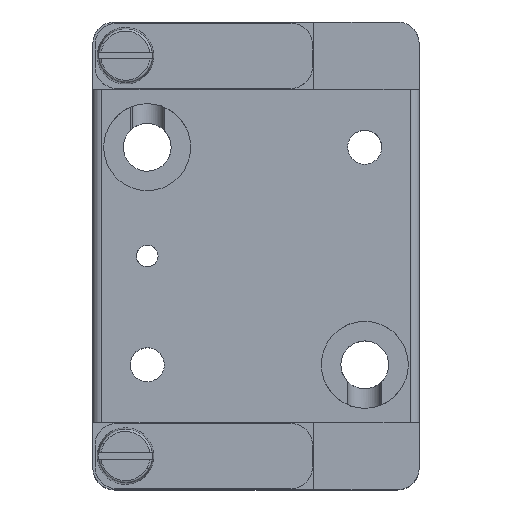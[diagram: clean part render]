
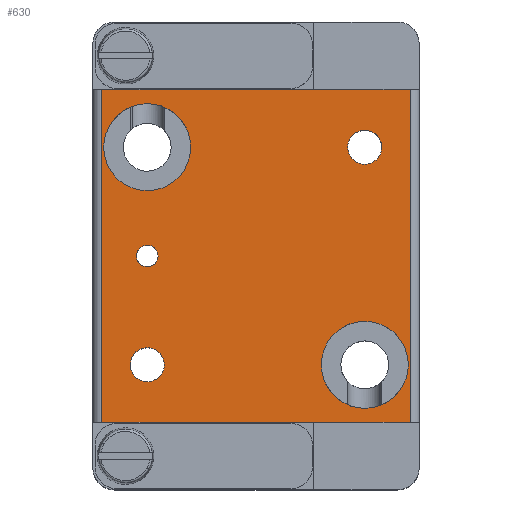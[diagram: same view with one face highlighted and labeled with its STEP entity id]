
A CAD part, top view. The second image highlights one B-rep face of the part: STEP entity #630.
In plain terms, the highlighted planar face has unit normal (0, 0, 1).
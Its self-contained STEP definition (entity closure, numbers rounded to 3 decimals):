
#408=AXIS2_PLACEMENT_3D('Circle Axis2P3D',#406,#407,$) ;
#472=AXIS2_PLACEMENT_3D('Plane Axis2P3D',#469,#470,#471) ;
#485=AXIS2_PLACEMENT_3D('Circle Axis2P3D',#483,#484,$) ;
#506=AXIS2_PLACEMENT_3D('Circle Axis2P3D',#504,#505,$) ;
#525=AXIS2_PLACEMENT_3D('Circle Axis2P3D',#523,#524,$) ;
#542=AXIS2_PLACEMENT_3D('Circle Axis2P3D',#540,#541,$) ;
#551=AXIS2_PLACEMENT_3D('Circle Axis2P3D',#549,#550,$) ;
#560=AXIS2_PLACEMENT_3D('Circle Axis2P3D',#558,#559,$) ;
#569=AXIS2_PLACEMENT_3D('Circle Axis2P3D',#567,#568,$) ;
#578=AXIS2_PLACEMENT_3D('Circle Axis2P3D',#576,#577,$) ;
#587=AXIS2_PLACEMENT_3D('Circle Axis2P3D',#585,#586,$) ;
#596=AXIS2_PLACEMENT_3D('Circle Axis2P3D',#594,#595,$) ;
#605=AXIS2_PLACEMENT_3D('Circle Axis2P3D',#603,#604,$) ;
#614=AXIS2_PLACEMENT_3D('Circle Axis2P3D',#612,#613,$) ;
#623=AXIS2_PLACEMENT_3D('Circle Axis2P3D',#621,#622,$) ;
#266=CARTESIAN_POINT('Vertex',(-7.1,-9.97,0.3)) ;
#269=CARTESIAN_POINT('Line Origine',(-7.1,0.,0.3)) ;
#273=CARTESIAN_POINT('Vertex',(-7.1,9.97,0.3)) ;
#403=CARTESIAN_POINT('Vertex',(-5.564,-9.25,0.3)) ;
#406=CARTESIAN_POINT('Axis2P3D Location',(-5.564,-11.25,0.3)) ;
#469=CARTESIAN_POINT('Axis2P3D Location',(7.5,-9.25,0.3)) ;
#474=CARTESIAN_POINT('Line Origine',(7.1,0.,0.3)) ;
#478=CARTESIAN_POINT('Vertex',(7.1,-9.97,0.3)) ;
#480=CARTESIAN_POINT('Vertex',(7.1,9.97,0.3)) ;
#483=CARTESIAN_POINT('Axis2P3D Location',(5.564,11.25,0.3)) ;
#487=CARTESIAN_POINT('Vertex',(5.564,9.25,0.3)) ;
#490=CARTESIAN_POINT('Line Origine',(2.782,9.25,0.3)) ;
#494=CARTESIAN_POINT('Vertex',(0.,9.25,0.3)) ;
#497=CARTESIAN_POINT('Line Origine',(-2.782,9.25,0.3)) ;
#501=CARTESIAN_POINT('Vertex',(-5.564,9.25,0.3)) ;
#504=CARTESIAN_POINT('Axis2P3D Location',(-5.564,11.25,0.3)) ;
#509=CARTESIAN_POINT('Line Origine',(-2.782,-9.25,0.3)) ;
#513=CARTESIAN_POINT('Vertex',(0.,-9.25,0.3)) ;
#516=CARTESIAN_POINT('Line Origine',(2.782,-9.25,0.3)) ;
#520=CARTESIAN_POINT('Vertex',(5.564,-9.25,0.3)) ;
#523=CARTESIAN_POINT('Axis2P3D Location',(5.564,-11.25,0.3)) ;
#540=CARTESIAN_POINT('Axis2P3D Location',(-5.,0.,0.3)) ;
#544=CARTESIAN_POINT('Vertex',(-4.561,0.24,0.3)) ;
#546=CARTESIAN_POINT('Vertex',(-5.439,-0.24,0.3)) ;
#549=CARTESIAN_POINT('Axis2P3D Location',(-5.,0.,0.3)) ;
#558=CARTESIAN_POINT('Axis2P3D Location',(5.,-5.,0.3)) ;
#562=CARTESIAN_POINT('Vertex',(6.755,-5.959,0.3)) ;
#564=CARTESIAN_POINT('Vertex',(3.245,-4.041,0.3)) ;
#567=CARTESIAN_POINT('Axis2P3D Location',(5.,-5.,0.3)) ;
#576=CARTESIAN_POINT('Axis2P3D Location',(5.,5.,0.3)) ;
#580=CARTESIAN_POINT('Vertex',(5.688,4.624,0.3)) ;
#582=CARTESIAN_POINT('Vertex',(4.312,5.376,0.3)) ;
#585=CARTESIAN_POINT('Axis2P3D Location',(5.,5.,0.3)) ;
#594=CARTESIAN_POINT('Axis2P3D Location',(-5.,5.,0.3)) ;
#598=CARTESIAN_POINT('Vertex',(-6.755,5.959,0.3)) ;
#600=CARTESIAN_POINT('Vertex',(-3.245,4.041,0.3)) ;
#603=CARTESIAN_POINT('Axis2P3D Location',(-5.,5.,0.3)) ;
#612=CARTESIAN_POINT('Axis2P3D Location',(-5.,-5.,0.3)) ;
#616=CARTESIAN_POINT('Vertex',(-4.312,-5.376,0.3)) ;
#618=CARTESIAN_POINT('Vertex',(-5.688,-4.624,0.3)) ;
#621=CARTESIAN_POINT('Axis2P3D Location',(-5.,-5.,0.3)) ;
#270=DIRECTION('Vector Direction',(0.,-1.,0.)) ;
#407=DIRECTION('Axis2P3D Direction',(0.,-0.,1.)) ;
#470=DIRECTION('Axis2P3D Direction',(0.,-0.,1.)) ;
#471=DIRECTION('Axis2P3D XDirection',(0.,1.,0.)) ;
#475=DIRECTION('Vector Direction',(0.,1.,0.)) ;
#484=DIRECTION('Axis2P3D Direction',(0.,-0.,1.)) ;
#491=DIRECTION('Vector Direction',(-1.,0.,0.)) ;
#498=DIRECTION('Vector Direction',(-1.,0.,0.)) ;
#505=DIRECTION('Axis2P3D Direction',(0.,-0.,1.)) ;
#510=DIRECTION('Vector Direction',(-1.,0.,0.)) ;
#517=DIRECTION('Vector Direction',(-1.,0.,0.)) ;
#524=DIRECTION('Axis2P3D Direction',(0.,-0.,1.)) ;
#541=DIRECTION('Axis2P3D Direction',(0.,-0.,1.)) ;
#550=DIRECTION('Axis2P3D Direction',(0.,-0.,1.)) ;
#559=DIRECTION('Axis2P3D Direction',(0.,-0.,1.)) ;
#568=DIRECTION('Axis2P3D Direction',(0.,-0.,1.)) ;
#577=DIRECTION('Axis2P3D Direction',(0.,-0.,1.)) ;
#586=DIRECTION('Axis2P3D Direction',(0.,-0.,1.)) ;
#595=DIRECTION('Axis2P3D Direction',(0.,-0.,1.)) ;
#604=DIRECTION('Axis2P3D Direction',(0.,-0.,1.)) ;
#613=DIRECTION('Axis2P3D Direction',(0.,-0.,1.)) ;
#622=DIRECTION('Axis2P3D Direction',(0.,-0.,1.)) ;
#271=VECTOR('Line Direction',#270,1.) ;
#476=VECTOR('Line Direction',#475,1.) ;
#492=VECTOR('Line Direction',#491,1.) ;
#499=VECTOR('Line Direction',#498,1.) ;
#511=VECTOR('Line Direction',#510,1.) ;
#518=VECTOR('Line Direction',#517,1.) ;
#529=ORIENTED_EDGE('',*,*,#482,.T.) ;
#530=ORIENTED_EDGE('',*,*,#489,.F.) ;
#531=ORIENTED_EDGE('',*,*,#496,.T.) ;
#532=ORIENTED_EDGE('',*,*,#503,.T.) ;
#533=ORIENTED_EDGE('',*,*,#508,.F.) ;
#534=ORIENTED_EDGE('',*,*,#275,.F.) ;
#535=ORIENTED_EDGE('',*,*,#410,.F.) ;
#536=ORIENTED_EDGE('',*,*,#515,.F.) ;
#537=ORIENTED_EDGE('',*,*,#522,.F.) ;
#538=ORIENTED_EDGE('',*,*,#527,.F.) ;
#555=ORIENTED_EDGE('',*,*,#548,.F.) ;
#556=ORIENTED_EDGE('',*,*,#553,.F.) ;
#573=ORIENTED_EDGE('',*,*,#566,.F.) ;
#574=ORIENTED_EDGE('',*,*,#571,.F.) ;
#591=ORIENTED_EDGE('',*,*,#584,.F.) ;
#592=ORIENTED_EDGE('',*,*,#589,.F.) ;
#609=ORIENTED_EDGE('',*,*,#602,.F.) ;
#610=ORIENTED_EDGE('',*,*,#607,.F.) ;
#627=ORIENTED_EDGE('',*,*,#620,.F.) ;
#628=ORIENTED_EDGE('',*,*,#625,.F.) ;
#557=FACE_BOUND('',#554,.T.) ;
#575=FACE_BOUND('',#572,.T.) ;
#593=FACE_BOUND('',#590,.T.) ;
#611=FACE_BOUND('',#608,.T.) ;
#629=FACE_BOUND('',#626,.T.) ;
#630=ADVANCED_FACE('Hauptk\X2\00F6\X0\rper',(#539,#557,#575,#593,#611,#629),#473,.T.) ;
#409=CIRCLE('generated circle',#408,2.) ;
#486=CIRCLE('generated circle',#485,2.) ;
#507=CIRCLE('generated circle',#506,2.) ;
#526=CIRCLE('generated circle',#525,2.) ;
#543=CIRCLE('generated circle',#542,0.5) ;
#552=CIRCLE('generated circle',#551,0.5) ;
#561=CIRCLE('generated circle',#560,2.) ;
#570=CIRCLE('generated circle',#569,2.) ;
#579=CIRCLE('generated circle',#578,0.784) ;
#588=CIRCLE('generated circle',#587,0.784) ;
#597=CIRCLE('generated circle',#596,2.) ;
#606=CIRCLE('generated circle',#605,2.) ;
#615=CIRCLE('generated circle',#614,0.784) ;
#624=CIRCLE('generated circle',#623,0.784) ;
#275=EDGE_CURVE('',#267,#274,#272,.F.) ;
#410=EDGE_CURVE('',#404,#267,#409,.T.) ;
#482=EDGE_CURVE('',#479,#481,#477,.T.) ;
#489=EDGE_CURVE('',#488,#481,#486,.T.) ;
#496=EDGE_CURVE('',#488,#495,#493,.T.) ;
#503=EDGE_CURVE('',#495,#502,#500,.T.) ;
#508=EDGE_CURVE('',#274,#502,#507,.T.) ;
#515=EDGE_CURVE('',#514,#404,#512,.T.) ;
#522=EDGE_CURVE('',#521,#514,#519,.T.) ;
#527=EDGE_CURVE('',#479,#521,#526,.T.) ;
#548=EDGE_CURVE('',#545,#547,#543,.T.) ;
#553=EDGE_CURVE('',#547,#545,#552,.T.) ;
#566=EDGE_CURVE('',#563,#565,#561,.T.) ;
#571=EDGE_CURVE('',#565,#563,#570,.T.) ;
#584=EDGE_CURVE('',#581,#583,#579,.T.) ;
#589=EDGE_CURVE('',#583,#581,#588,.T.) ;
#602=EDGE_CURVE('',#599,#601,#597,.T.) ;
#607=EDGE_CURVE('',#601,#599,#606,.T.) ;
#620=EDGE_CURVE('',#617,#619,#615,.T.) ;
#625=EDGE_CURVE('',#619,#617,#624,.T.) ;
#528=EDGE_LOOP('',(#529,#530,#531,#532,#533,#534,#535,#536,#537,#538)) ;
#554=EDGE_LOOP('',(#555,#556)) ;
#572=EDGE_LOOP('',(#573,#574)) ;
#590=EDGE_LOOP('',(#591,#592)) ;
#608=EDGE_LOOP('',(#609,#610)) ;
#626=EDGE_LOOP('',(#627,#628)) ;
#539=FACE_OUTER_BOUND('',#528,.T.) ;
#272=LINE('Line',#269,#271) ;
#477=LINE('Line',#474,#476) ;
#493=LINE('Line',#490,#492) ;
#500=LINE('Line',#497,#499) ;
#512=LINE('Line',#509,#511) ;
#519=LINE('Line',#516,#518) ;
#473=PLANE('',#472) ;
#267=VERTEX_POINT('',#266) ;
#274=VERTEX_POINT('',#273) ;
#404=VERTEX_POINT('',#403) ;
#479=VERTEX_POINT('',#478) ;
#481=VERTEX_POINT('',#480) ;
#488=VERTEX_POINT('',#487) ;
#495=VERTEX_POINT('',#494) ;
#502=VERTEX_POINT('',#501) ;
#514=VERTEX_POINT('',#513) ;
#521=VERTEX_POINT('',#520) ;
#545=VERTEX_POINT('',#544) ;
#547=VERTEX_POINT('',#546) ;
#563=VERTEX_POINT('',#562) ;
#565=VERTEX_POINT('',#564) ;
#581=VERTEX_POINT('',#580) ;
#583=VERTEX_POINT('',#582) ;
#599=VERTEX_POINT('',#598) ;
#601=VERTEX_POINT('',#600) ;
#617=VERTEX_POINT('',#616) ;
#619=VERTEX_POINT('',#618) ;
